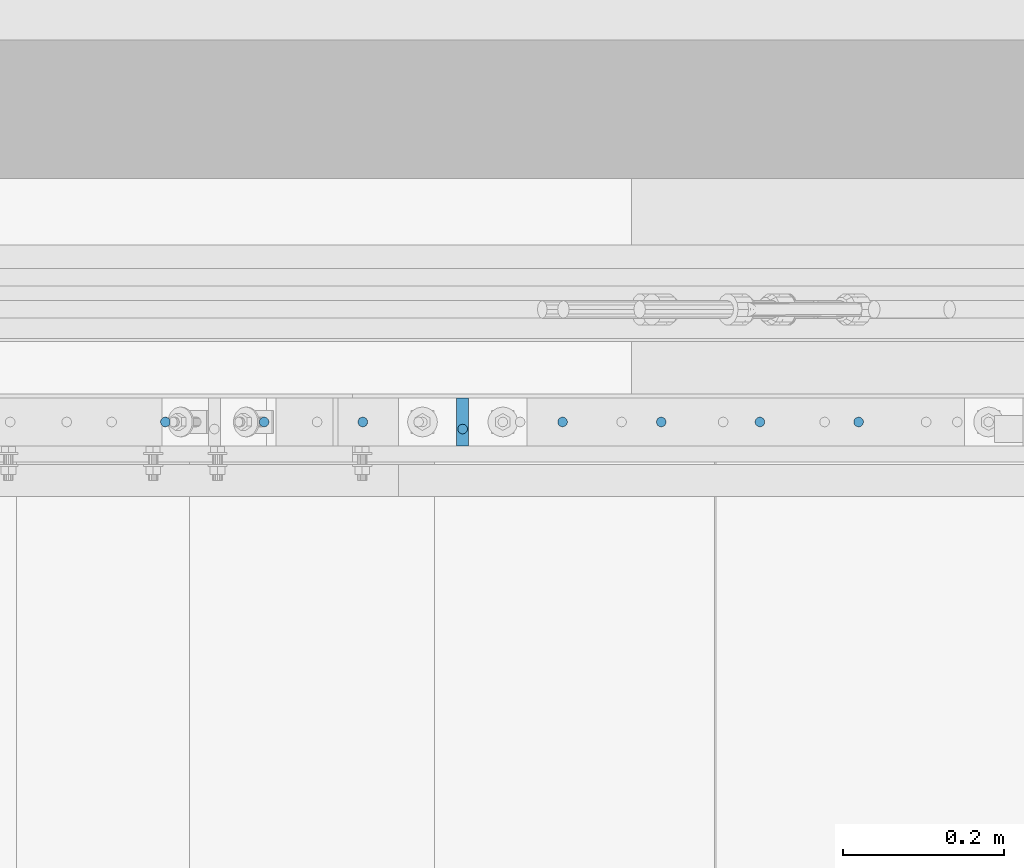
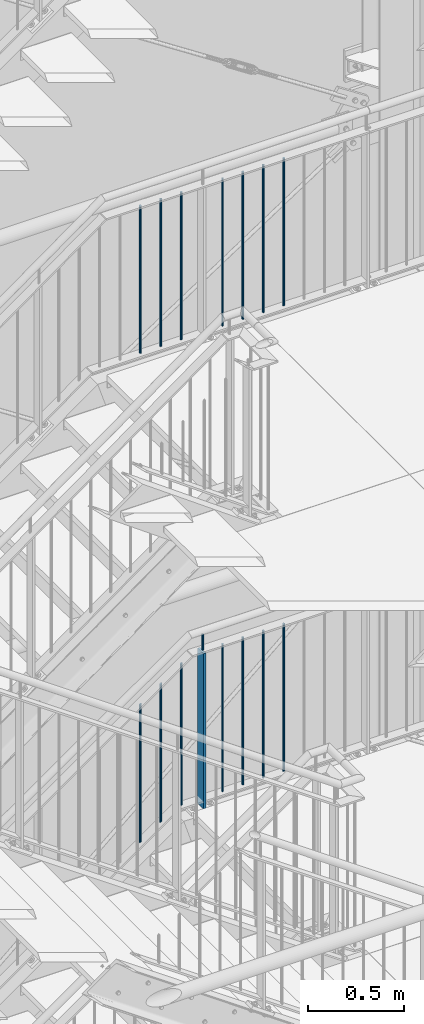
# One storey, part 108 of 831: 16 columns.
"""IFC2X3 building model written with IfcOpenShell, lengths in millimetres."""

from ifc_helpers import new_model, entity, si_unit, converted_unit, frame, origin, origin_with_axes, origin_2d, place, context, project, spatial, rectangle, circle, extrude, clip, halfspace, material, element, save


model = new_model("IFC2X3")

# Units and contexts
model_context = context("Model", 3, precision=1e-09, world=origin_with_axes())
ifc_project = project(units=[si_unit("LENGTHUNIT", "METRE", prefix="MILLI"), si_unit("AREAUNIT", "SQUARE_METRE"), si_unit("VOLUMEUNIT", "CUBIC_METRE"), converted_unit("PLANEANGLEUNIT", "DEGREE", entity("IfcPlaneAngleMeasure", 0.01745329), si_unit("PLANEANGLEUNIT", "RADIAN"), dimensions=[0, 0, 0, 0, 0, 0, 0])], contexts=[model_context])

# Site, building, storey
site_placement = place(None, origin_with_axes())
site = spatial("IfcSite", under=ifc_project, at=site_placement, Name="Site", CompositionType="ELEMENT")
building_placement = place(site_placement, origin_with_axes())
building = spatial("IfcBuilding", under=site, at=building_placement, Name="Struktur 1", CompositionType="ELEMENT")
storey_placement = place(building_placement, origin_with_axes())
storey = spatial("IfcBuildingStorey", under=building, at=storey_placement, Name="Default Storey", CompositionType="ELEMENT", Elevation=0.0)

# Columns
ifc_material = material(Name="S235JR")
column_1_placement = place(None, frame((7656.713831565, 7356.736971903, 6714.618028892), z_axis=(0.0, 0.0, 1.0), x_axis=(1.0, 0.0, 0.0)))
element("IfcColumn", 1, at=column_1_placement, inside=storey, material=ifc_material, Name="Railing_Post_Landing#3", ObjectType="Railing_Post_Landing#3", context=model_context, shape_type="Clipping", body=[
    clip(clip(extrude(rectangle(XDim=15.0, YDim=60.0, at=origin_2d()), origin(), (0.0, 0.0, -1.0), 1070.646584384), halfspace(frame((-7656.713831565, -7356.736971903, -1019.722292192), z_axis=(0.0, 0.0, 1.0), x_axis=(1.0, 0.0, 0.0)), True)), halfspace(frame((-7656.713831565, -7356.736971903, -30.924292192), z_axis=(0.0, 0.0, -1.0), x_axis=(-1.0, 0.0, 0.0)), True)),
])
column_2_placement = place(None, frame((7286.963783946, 7356.736971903, 6483.423738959), z_axis=(0.0, 0.0, 1.0), x_axis=(1.0, 0.0, 0.0)))
element("IfcColumn", 2, at=column_2_placement, inside=storey, material=ifc_material, Name="Railing_Picket_Stair#18", ObjectType="Railing_Picket_Stair#18", context=model_context, shape_type="Clipping", body=[
    clip(clip(extrude(circle(Radius=6.0, at=origin_2d()), origin(), (0.0, 0.0, -1.0), 897.037988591), halfspace(frame((-7509.862950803, -7356.736971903, -6166.371655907), z_axis=(-0.575128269, 0.0, 0.818063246), x_axis=(0.0, -1.0, 0.0)), True)), halfspace(frame((-7922.150118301, -7356.736971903, -5579.933818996), z_axis=(0.575128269, 0.0, -0.818063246), x_axis=(0.0, 1.0, 0.0)), True)),
])
column_3_placement = place(None, frame((7409.713807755, 7356.736971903, 6569.721478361), z_axis=(0.0, 0.0, 1.0), x_axis=(1.0, 0.0, 0.0)))
element("IfcColumn", 3, at=column_3_placement, inside=storey, material=ifc_material, Name="Railing_Picket_Stair#19", ObjectType="Railing_Picket_Stair#19", context=model_context, shape_type="Clipping", body=[
    clip(clip(extrude(circle(Radius=6.0, at=origin_2d()), origin(), (0.0, 0.0, -1.0), 897.037988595), halfspace(frame((-7632.612974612, -7356.736971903, -6252.66939531), z_axis=(-0.575128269, 0.0, 0.818063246), x_axis=(0.0, -1.0, 0.0)), True)), halfspace(frame((-8044.900142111, -7356.736971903, -5666.231558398), z_axis=(0.575128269, 0.0, -0.818063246), x_axis=(0.0, 1.0, 0.0)), True)),
])
column_4_placement = place(None, frame((7532.463831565, 7356.736971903, 6656.019217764), z_axis=(0.0, 0.0, 1.0), x_axis=(1.0, 0.0, 0.0)))
element("IfcColumn", 4, at=column_4_placement, inside=storey, material=ifc_material, Name="Railing_Picket_Landing#20", ObjectType="Railing_Picket_Landing#20", context=model_context, shape_type="Clipping", body=[
    clip(extrude(circle(Radius=6.0, at=origin_2d()), origin(), (0.0, 0.0, -1.0), 911.124481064), halfspace(frame((-8167.65016592, -7356.736971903, -5752.529297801), z_axis=(0.575128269, 0.0, -0.818063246), x_axis=(0.0, 1.0, 0.0)), True)),
])
column_5_placement = place(None, frame((7780.963831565, 7356.736971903, 6697.180018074), z_axis=(0.0, 0.0, 1.0), x_axis=(1.0, 0.0, 0.0)))
element("IfcColumn", 5, at=column_5_placement, inside=storey, material=ifc_material, Name="Railing_Picket_Landing#21", ObjectType="Railing_Picket_Landing#21", context=model_context, shape_type="Clipping", body=[
    clip(clip(extrude(circle(Radius=6.0, at=origin_2d()), origin(), (0.0, 0.0, -1.0), 965.770562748), halfspace(frame((-7780.963831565, -7356.736971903, -13.486281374), z_axis=(0.0, 0.0, -1.0), x_axis=(-1.0, 0.0, 0.0)), True)), halfspace(frame((-7780.963831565, -7356.736971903, -952.284281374), z_axis=(0.0, 0.0, 1.0), x_axis=(1.0, 0.0, 0.0)), True)),
])
column_6_placement = place(None, frame((7903.713855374, 7356.736971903, 6697.180018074), z_axis=(0.0, 0.0, 1.0), x_axis=(1.0, 0.0, 0.0)))
element("IfcColumn", 6, at=column_6_placement, inside=storey, material=ifc_material, Name="Railing_Picket_Landing#22", ObjectType="Railing_Picket_Landing#22", context=model_context, shape_type="Clipping", body=[
    clip(clip(extrude(circle(Radius=6.0, at=origin_2d()), origin(), (0.0, 0.0, -1.0), 965.770562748), halfspace(frame((-7903.713855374, -7356.736971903, -13.486281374), z_axis=(0.0, 0.0, -1.0), x_axis=(-1.0, 0.0, 0.0)), True)), halfspace(frame((-7903.713855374, -7356.736971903, -952.284281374), z_axis=(0.0, 0.0, 1.0), x_axis=(1.0, 0.0, 0.0)), True)),
])
column_7_placement = place(None, frame((8026.463879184, 7356.736971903, 6697.180018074), z_axis=(0.0, 0.0, 1.0), x_axis=(1.0, 0.0, 0.0)))
element("IfcColumn", 7, at=column_7_placement, inside=storey, material=ifc_material, Name="Railing_Picket_Landing#23", ObjectType="Railing_Picket_Landing#23", context=model_context, shape_type="Clipping", body=[
    clip(clip(extrude(circle(Radius=6.0, at=origin_2d()), origin(), (0.0, 0.0, -1.0), 965.770562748), halfspace(frame((-8026.463879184, -7356.736971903, -13.486281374), z_axis=(0.0, 0.0, -1.0), x_axis=(-1.0, 0.0, 0.0)), True)), halfspace(frame((-8026.463879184, -7356.736971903, -952.284281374), z_axis=(0.0, 0.0, 1.0), x_axis=(1.0, 0.0, 0.0)), True)),
])
column_8_placement = place(None, frame((8149.213902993, 7356.736971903, 6697.180018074), z_axis=(0.0, 0.0, 1.0), x_axis=(1.0, 0.0, 0.0)))
element("IfcColumn", 8, at=column_8_placement, inside=storey, material=ifc_material, Name="Railing_Picket_Landing#24", ObjectType="Railing_Picket_Landing#24", context=model_context, shape_type="Clipping", body=[
    clip(clip(extrude(circle(Radius=6.0, at=origin_2d()), origin(), (0.0, 0.0, -1.0), 965.770562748), halfspace(frame((-8149.213902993, -7356.736971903, -13.486281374), z_axis=(0.0, 0.0, -1.0), x_axis=(-1.0, 0.0, 0.0)), True)), halfspace(frame((-8149.213902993, -7356.736971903, -952.284281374), z_axis=(0.0, 0.0, 1.0), x_axis=(1.0, 0.0, 0.0)), True)),
])
column_9_placement = place(None, frame((7656.713831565, 7347.936971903, 6802.180018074), z_axis=(0.0, 0.0, 1.0), x_axis=(0.0, -1.0, 0.0)))
element("IfcColumn", 9, at=column_9_placement, inside=storey, material=ifc_material, Name="Bar#3", ObjectType="Bar#3", context=model_context, shape_type="Clipping", body=[
    clip(clip(extrude(circle(Radius=6.0, at=origin_2d()), origin(), (0.0, 0.0, -1.0), 116.970562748), halfspace(frame((7347.936971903, -7656.713831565, -8.486281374), z_axis=(0.0, 0.0, -1.0), x_axis=(0.0, -1.0, 0.0)), True)), halfspace(frame((7347.936971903, -7656.713831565, -108.484281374), z_axis=(0.0, 0.0, 1.0), x_axis=(0.0, 1.0, 0.0)), True)),
])
column_10_placement = place(None, frame((7286.963783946, 7356.736971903, 9658.285281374), z_axis=(0.0, 0.0, 1.0), x_axis=(1.0, 0.0, 0.0)))
element("IfcColumn", 10, at=column_10_placement, inside=storey, material=ifc_material, Name="Railing_Picket_Landing#18", ObjectType="Railing_Picket_Landing#18", context=model_context, shape_type="Clipping", body=[
    clip(clip(extrude(circle(Radius=6.0, at=origin_2d()), origin(), (0.0, 0.0, -1.0), 965.770562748), halfspace(frame((-7286.963783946, -7356.736971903, -13.486281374), z_axis=(0.0, 0.0, -1.0), x_axis=(-1.0, 0.0, 0.0)), True)), halfspace(frame((-7286.963783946, -7356.736971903, -952.284281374), z_axis=(0.0, 0.0, 1.0), x_axis=(1.0, 0.0, 0.0)), True)),
])
column_11_placement = place(None, frame((7409.713807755, 7356.736971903, 9658.285281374), z_axis=(0.0, 0.0, 1.0), x_axis=(1.0, 0.0, 0.0)))
element("IfcColumn", 11, at=column_11_placement, inside=storey, material=ifc_material, Name="Railing_Picket_Landing#19", ObjectType="Railing_Picket_Landing#19", context=model_context, shape_type="Clipping", body=[
    clip(clip(extrude(circle(Radius=6.0, at=origin_2d()), origin(), (0.0, 0.0, -1.0), 965.770562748), halfspace(frame((-7409.713807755, -7356.736971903, -13.486281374), z_axis=(0.0, 0.0, -1.0), x_axis=(-1.0, 0.0, 0.0)), True)), halfspace(frame((-7409.713807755, -7356.736971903, -952.284281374), z_axis=(0.0, 0.0, 1.0), x_axis=(1.0, 0.0, 0.0)), True)),
])
column_12_placement = place(None, frame((7532.463831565, 7356.736971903, 9658.285281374), z_axis=(0.0, 0.0, 1.0), x_axis=(1.0, 0.0, 0.0)))
element("IfcColumn", 12, at=column_12_placement, inside=storey, material=ifc_material, Name="Railing_Picket_Landing#20", ObjectType="Railing_Picket_Landing#20", context=model_context, shape_type="Clipping", body=[
    clip(clip(extrude(circle(Radius=6.0, at=origin_2d()), origin(), (0.0, 0.0, -1.0), 965.770562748), halfspace(frame((-7532.463831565, -7356.736971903, -13.486281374), z_axis=(0.0, 0.0, -1.0), x_axis=(-1.0, 0.0, 0.0)), True)), halfspace(frame((-7532.463831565, -7356.736971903, -952.284281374), z_axis=(0.0, 0.0, 1.0), x_axis=(1.0, 0.0, 0.0)), True)),
])
column_13_placement = place(None, frame((7780.963831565, 7356.736971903, 9658.285281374), z_axis=(0.0, 0.0, 1.0), x_axis=(1.0, 0.0, 0.0)))
element("IfcColumn", 13, at=column_13_placement, inside=storey, material=ifc_material, Name="Railing_Picket_Landing#21", ObjectType="Railing_Picket_Landing#21", context=model_context, shape_type="Clipping", body=[
    clip(clip(extrude(circle(Radius=6.0, at=origin_2d()), origin(), (0.0, 0.0, -1.0), 965.770562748), halfspace(frame((-7780.963831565, -7356.736971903, -13.486281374), z_axis=(0.0, 0.0, -1.0), x_axis=(-1.0, 0.0, 0.0)), True)), halfspace(frame((-7780.963831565, -7356.736971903, -952.284281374), z_axis=(0.0, 0.0, 1.0), x_axis=(1.0, 0.0, 0.0)), True)),
])
column_14_placement = place(None, frame((7903.713855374, 7356.736971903, 9658.285281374), z_axis=(0.0, 0.0, 1.0), x_axis=(1.0, 0.0, 0.0)))
element("IfcColumn", 14, at=column_14_placement, inside=storey, material=ifc_material, Name="Railing_Picket_Landing#22", ObjectType="Railing_Picket_Landing#22", context=model_context, shape_type="Clipping", body=[
    clip(clip(extrude(circle(Radius=6.0, at=origin_2d()), origin(), (0.0, 0.0, -1.0), 965.770562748), halfspace(frame((-7903.713855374, -7356.736971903, -13.486281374), z_axis=(0.0, 0.0, -1.0), x_axis=(-1.0, 0.0, 0.0)), True)), halfspace(frame((-7903.713855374, -7356.736971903, -952.284281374), z_axis=(0.0, 0.0, 1.0), x_axis=(1.0, 0.0, 0.0)), True)),
])
column_15_placement = place(None, frame((8026.463879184, 7356.736971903, 9658.285281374), z_axis=(0.0, 0.0, 1.0), x_axis=(1.0, 0.0, 0.0)))
element("IfcColumn", 15, at=column_15_placement, inside=storey, material=ifc_material, Name="Railing_Picket_Landing#23", ObjectType="Railing_Picket_Landing#23", context=model_context, shape_type="Clipping", body=[
    clip(clip(extrude(circle(Radius=6.0, at=origin_2d()), origin(), (0.0, 0.0, -1.0), 965.770562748), halfspace(frame((-8026.463879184, -7356.736971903, -13.486281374), z_axis=(0.0, 0.0, -1.0), x_axis=(-1.0, 0.0, 0.0)), True)), halfspace(frame((-8026.463879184, -7356.736971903, -952.284281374), z_axis=(0.0, 0.0, 1.0), x_axis=(1.0, 0.0, 0.0)), True)),
])
column_16_placement = place(None, frame((8149.213902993, 7356.736971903, 9658.285281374), z_axis=(0.0, 0.0, 1.0), x_axis=(1.0, 0.0, 0.0)))
element("IfcColumn", 16, at=column_16_placement, inside=storey, material=ifc_material, Name="Railing_Picket_Landing#24", ObjectType="Railing_Picket_Landing#24", context=model_context, shape_type="Clipping", body=[
    clip(clip(extrude(circle(Radius=6.0, at=origin_2d()), origin(), (0.0, 0.0, -1.0), 965.770562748), halfspace(frame((-8149.213902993, -7356.736971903, -13.486281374), z_axis=(0.0, 0.0, -1.0), x_axis=(-1.0, 0.0, 0.0)), True)), halfspace(frame((-8149.213902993, -7356.736971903, -952.284281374), z_axis=(0.0, 0.0, 1.0), x_axis=(1.0, 0.0, 0.0)), True)),
])

save(model, "model.ifc")
